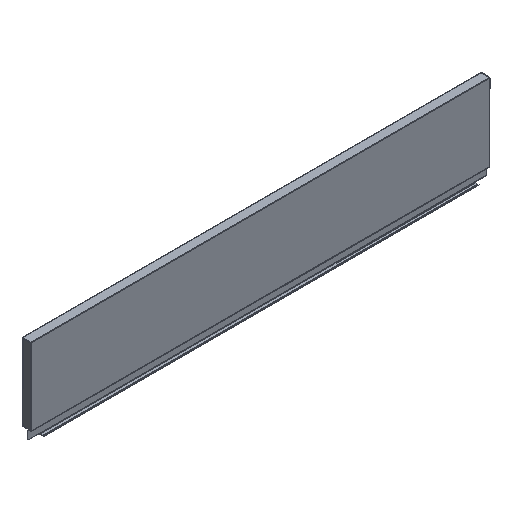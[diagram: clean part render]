
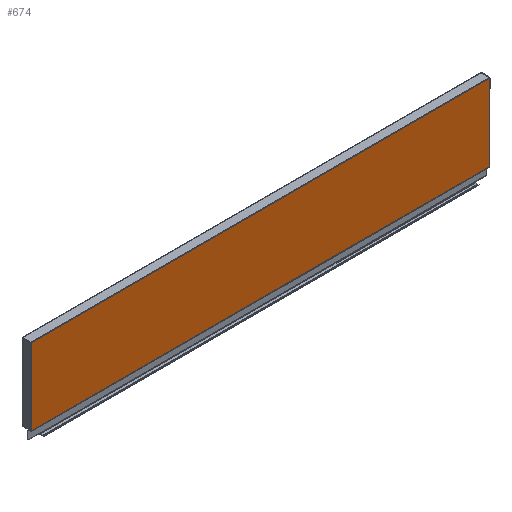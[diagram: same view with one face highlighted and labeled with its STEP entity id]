
A CAD part, isometric view. The second image highlights one B-rep face of the part: STEP entity #674.
In plain terms, the highlighted planar face has unit normal (0, -1, 0).
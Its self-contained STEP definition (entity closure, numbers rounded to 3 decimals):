
#13 = VERTEX_POINT ( 'NONE', #476 ) ;
#26 = VERTEX_POINT ( 'NONE', #470 ) ;
#35 = VERTEX_POINT ( 'NONE', #467 ) ;
#92 = VERTEX_POINT ( 'NONE', #449 ) ;
#131 = DIRECTION ( 'NONE',  ( 1., 0., 0. ) ) ;
#132 = DIRECTION ( 'NONE',  ( 0., -1., 0. ) ) ;
#133 = CARTESIAN_POINT ( 'NONE',  ( -405., -6., 17. ) ) ;
#135 = PLANE ( 'NONE',  #2386 ) ;
#349 = CARTESIAN_POINT ( 'NONE',  ( -404., -6., 152. ) ) ;
#363 = CARTESIAN_POINT ( 'NONE',  ( -403.5, -6., 17. ) ) ;
#371 = CARTESIAN_POINT ( 'NONE',  ( 404., -6., 152. ) ) ;
#372 = CARTESIAN_POINT ( 'NONE',  ( 403.5, -6., 17. ) ) ;
#380 = CARTESIAN_POINT ( 'NONE',  ( 404., -6., 151.5 ) ) ;
#382 = CARTESIAN_POINT ( 'NONE',  ( 404., -6., 17.5 ) ) ;
#449 = CARTESIAN_POINT ( 'NONE',  ( -403.5, -6., 17.5 ) ) ;
#467 = CARTESIAN_POINT ( 'NONE',  ( -404., -6., 151.5 ) ) ;
#470 = CARTESIAN_POINT ( 'NONE',  ( -404., -6., 17.5 ) ) ;
#476 = CARTESIAN_POINT ( 'NONE',  ( 403.5, -6., 17.5 ) ) ;
#479 = VERTEX_POINT ( 'NONE', #382 ) ;
#483 = VERTEX_POINT ( 'NONE', #380 ) ;
#506 = VERTEX_POINT ( 'NONE', #372 ) ;
#507 = VERTEX_POINT ( 'NONE', #371 ) ;
#514 = VERTEX_POINT ( 'NONE', #363 ) ;
#527 = VERTEX_POINT ( 'NONE', #349 ) ;
#583 = CARTESIAN_POINT ( 'NONE',  ( -404., -6., 170.385 ) ) ;
#584 = DIRECTION ( 'NONE',  ( 0., 0., -1. ) ) ;
#585 = CARTESIAN_POINT ( 'NONE',  ( -405., -6., 152. ) ) ;
#586 = DIRECTION ( 'NONE',  ( 1., 0., 0. ) ) ;
#587 = CARTESIAN_POINT ( 'NONE',  ( 404., -6., 170.385 ) ) ;
#588 = DIRECTION ( 'NONE',  ( 0., 0., -1. ) ) ;
#589 = CARTESIAN_POINT ( 'NONE',  ( 404., -6., 170.385 ) ) ;
#590 = DIRECTION ( 'NONE',  ( 0., 0., -1. ) ) ;
#591 = CARTESIAN_POINT ( 'NONE',  ( 403.5, -6., 17.5 ) ) ;
#592 = DIRECTION ( 'NONE',  ( 1., 0., 0. ) ) ;
#593 = CARTESIAN_POINT ( 'NONE',  ( 403.5, -6., 15.3 ) ) ;
#594 = DIRECTION ( 'NONE',  ( 0., 0., 1. ) ) ;
#595 = CARTESIAN_POINT ( 'NONE',  ( -405., -6., 17.5 ) ) ;
#596 = DIRECTION ( 'NONE',  ( 1., 0., 0. ) ) ;
#597 = CARTESIAN_POINT ( 'NONE',  ( -405., -6., 17. ) ) ;
#598 = DIRECTION ( 'NONE',  ( 1., 0., 0. ) ) ;
#599 = CARTESIAN_POINT ( 'NONE',  ( -404., -6., 170.385 ) ) ;
#600 = DIRECTION ( 'NONE',  ( 0., 0., -1. ) ) ;
#603 = CARTESIAN_POINT ( 'NONE',  ( -403.5, -6., 17.5 ) ) ;
#604 = DIRECTION ( 'NONE',  ( 0., 0., -1. ) ) ;
#674 = ADVANCED_FACE ( 'NONE', ( #1409 ), #135, .T. ) ;
#853 = EDGE_LOOP ( 'NONE', ( #1349, #1348, #1347, #1346, #1345, #1344, #1343, #1342, #1341, #1340 ) ) ;
#1340 = ORIENTED_EDGE ( 'NONE', *, *, #2334, .T. ) ;
#1341 = ORIENTED_EDGE ( 'NONE', *, *, #2335, .F. ) ;
#1342 = ORIENTED_EDGE ( 'NONE', *, *, #2336, .F. ) ;
#1343 = ORIENTED_EDGE ( 'NONE', *, *, #2337, .F. ) ;
#1344 = ORIENTED_EDGE ( 'NONE', *, *, #2338, .T. ) ;
#1345 = ORIENTED_EDGE ( 'NONE', *, *, #2339, .T. ) ;
#1346 = ORIENTED_EDGE ( 'NONE', *, *, #2341, .T. ) ;
#1347 = ORIENTED_EDGE ( 'NONE', *, *, #2344, .T. ) ;
#1348 = ORIENTED_EDGE ( 'NONE', *, *, #2340, .T. ) ;
#1349 = ORIENTED_EDGE ( 'NONE', *, *, #2342, .T. ) ;
#1409 = FACE_OUTER_BOUND ( 'NONE', #853, .T. ) ;
#1813 = LINE ( 'NONE', #583, #1814 ) ;
#1814 = VECTOR ( 'NONE', #584, 1000. ) ;
#1815 = LINE ( 'NONE', #585, #1816 ) ;
#1816 = VECTOR ( 'NONE', #586, 1000. ) ;
#1817 = LINE ( 'NONE', #587, #1818 ) ;
#1818 = VECTOR ( 'NONE', #588, 1000. ) ;
#1819 = LINE ( 'NONE', #589, #1820 ) ;
#1820 = VECTOR ( 'NONE', #590, 1000. ) ;
#1821 = LINE ( 'NONE', #591, #1822 ) ;
#1822 = VECTOR ( 'NONE', #592, 1000. ) ;
#1823 = LINE ( 'NONE', #593, #1824 ) ;
#1824 = VECTOR ( 'NONE', #594, 1000. ) ;
#1825 = LINE ( 'NONE', #595, #1826 ) ;
#1826 = VECTOR ( 'NONE', #596, 1000. ) ;
#1827 = LINE ( 'NONE', #597, #1828 ) ;
#1828 = VECTOR ( 'NONE', #598, 1000. ) ;
#1829 = LINE ( 'NONE', #599, #1830 ) ;
#1830 = VECTOR ( 'NONE', #600, 1000. ) ;
#1833 = LINE ( 'NONE', #603, #1834 ) ;
#1834 = VECTOR ( 'NONE', #604, 1000. ) ;
#2334 = EDGE_CURVE ( 'NONE', #527, #35, #1813, .T. ) ;
#2335 = EDGE_CURVE ( 'NONE', #527, #507, #1815, .T. ) ;
#2336 = EDGE_CURVE ( 'NONE', #507, #483, #1817, .T. ) ;
#2337 = EDGE_CURVE ( 'NONE', #483, #479, #1819, .T. ) ;
#2338 = EDGE_CURVE ( 'NONE', #13, #479, #1821, .T. ) ;
#2339 = EDGE_CURVE ( 'NONE', #506, #13, #1823, .T. ) ;
#2340 = EDGE_CURVE ( 'NONE', #26, #92, #1825, .T. ) ;
#2341 = EDGE_CURVE ( 'NONE', #514, #506, #1827, .T. ) ;
#2342 = EDGE_CURVE ( 'NONE', #35, #26, #1829, .T. ) ;
#2344 = EDGE_CURVE ( 'NONE', #92, #514, #1833, .T. ) ;
#2386 = AXIS2_PLACEMENT_3D ( 'NONE', #133, #132, #131 ) ;
